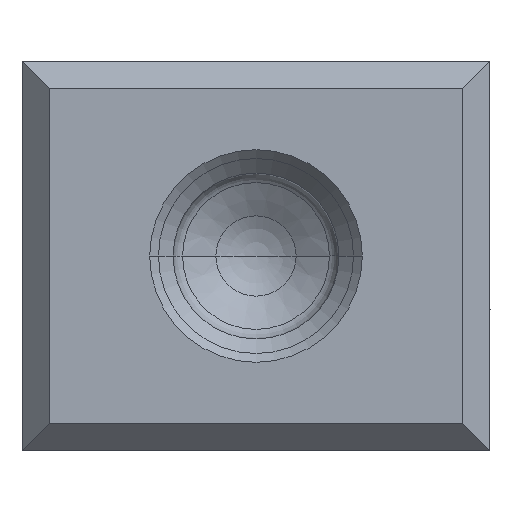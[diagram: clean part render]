
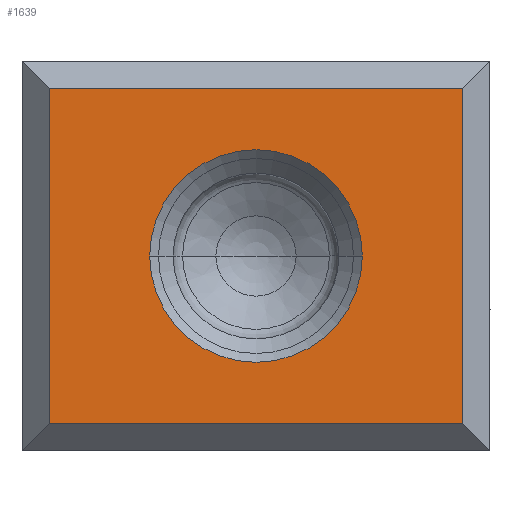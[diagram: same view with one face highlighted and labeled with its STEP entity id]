
A CAD part, left-side view. The second image highlights one B-rep face of the part: STEP entity #1639.
In plain terms, the highlighted planar face has unit normal (-1, 0, 0).
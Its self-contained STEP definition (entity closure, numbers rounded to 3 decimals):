
#248=DIRECTION('',(0.,1.,0.));
#249=VECTOR('',#248,10.6);
#250=CARTESIAN_POINT('',(-22.,0.7,4.3));
#251=LINE('',#250,#249);
#256=DIRECTION('',(0.,0.,-1.));
#257=VECTOR('',#256,8.6);
#258=CARTESIAN_POINT('',(-22.,0.7,4.3));
#259=LINE('',#258,#257);
#260=DIRECTION('',(0.,1.,0.));
#261=VECTOR('',#260,10.6);
#262=CARTESIAN_POINT('',(-22.,0.7,-4.3));
#263=LINE('',#262,#261);
#264=CARTESIAN_POINT('',(-22.,6.,0.));
#265=DIRECTION('',(-1.,0.,0.));
#266=DIRECTION('',(0.,1.,0.));
#267=AXIS2_PLACEMENT_3D('',#264,#265,#266);
#269=CARTESIAN_POINT('',(-22.,6.,0.));
#270=DIRECTION('',(-1.,0.,0.));
#271=DIRECTION('',(0.,-1.,0.));
#272=AXIS2_PLACEMENT_3D('',#269,#270,#271);
#657=DIRECTION('',(0.,0.,-1.));
#658=VECTOR('',#657,8.6);
#659=CARTESIAN_POINT('',(-22.,11.3,4.3));
#660=LINE('',#659,#658);
#1370=CARTESIAN_POINT('',(-22.,0.7,4.3));
#1371=CARTESIAN_POINT('',(-22.,11.3,4.3));
#1372=VERTEX_POINT('',#1370);
#1373=VERTEX_POINT('',#1371);
#1374=CARTESIAN_POINT('',(-22.,0.7,-4.3));
#1375=VERTEX_POINT('',#1374);
#1376=CARTESIAN_POINT('',(-22.,11.3,-4.3));
#1377=VERTEX_POINT('',#1376);
#1378=CARTESIAN_POINT('',(-22.,8.725,0.));
#1379=CARTESIAN_POINT('',(-22.,3.275,0.));
#1380=VERTEX_POINT('',#1378);
#1381=VERTEX_POINT('',#1379);
#1619=CARTESIAN_POINT('',(-22.,12.25,-6.25));
#1620=DIRECTION('',(-1.,0.,0.));
#1621=DIRECTION('',(0.,-1.,0.));
#1622=AXIS2_PLACEMENT_3D('',#1619,#1620,#1621);
#1623=PLANE('',#1622);
#1625=ORIENTED_EDGE('',*,*,#1624,.T.);
#1627=ORIENTED_EDGE('',*,*,#1626,.T.);
#1629=ORIENTED_EDGE('',*,*,#1628,.F.);
#1630=ORIENTED_EDGE('',*,*,#1609,.F.);
#1631=EDGE_LOOP('',(#1625,#1627,#1629,#1630));
#1632=FACE_OUTER_BOUND('',#1631,.F.);
#1634=ORIENTED_EDGE('',*,*,#1633,.T.);
#1636=ORIENTED_EDGE('',*,*,#1635,.T.);
#1637=EDGE_LOOP('',(#1634,#1636));
#1638=FACE_BOUND('',#1637,.F.);
#1639=ADVANCED_FACE('',(#1632,#1638),#1623,.T.);
#268=CIRCLE('',#267,2.725);
#273=CIRCLE('',#272,2.725);
#1609=EDGE_CURVE('',#1372,#1373,#251,.T.);
#1624=EDGE_CURVE('',#1372,#1375,#259,.T.);
#1626=EDGE_CURVE('',#1375,#1377,#263,.T.);
#1628=EDGE_CURVE('',#1373,#1377,#660,.T.);
#1633=EDGE_CURVE('',#1380,#1381,#268,.T.);
#1635=EDGE_CURVE('',#1381,#1380,#273,.T.);
